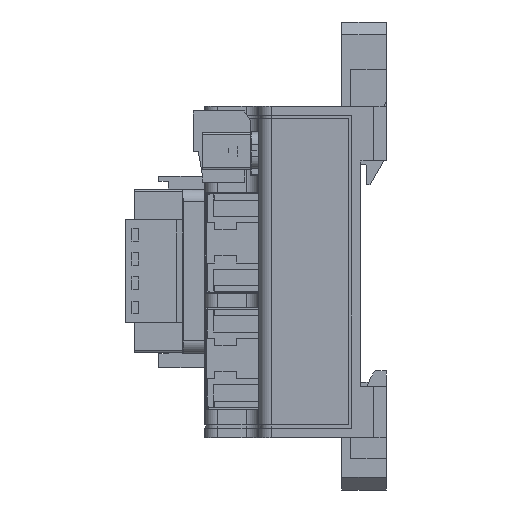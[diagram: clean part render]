
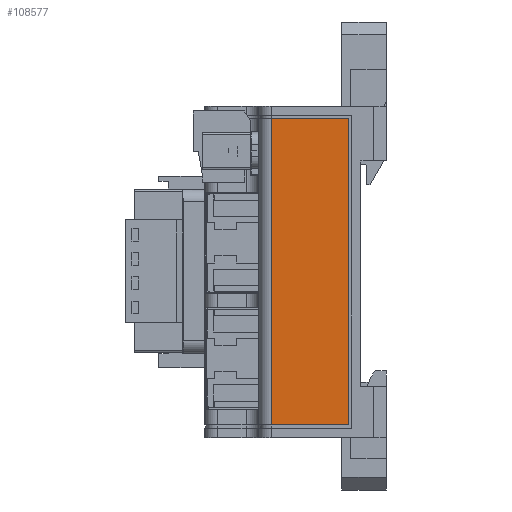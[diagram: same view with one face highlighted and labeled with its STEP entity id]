
A CAD part, left-side view. The second image highlights one B-rep face of the part: STEP entity #108577.
In plain terms, the highlighted planar face has unit normal (-0.999, 0.039, 0).
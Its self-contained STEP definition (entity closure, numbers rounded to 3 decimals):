
#741 = ORIENTED_EDGE ( 'NONE', *, *, #1602, .T. ) ;
#937 = VECTOR ( 'NONE', #34202, 1000. ) ;
#1602 = EDGE_CURVE ( 'NONE', #79859, #6492, #90097, .T. ) ;
#4443 = VERTEX_POINT ( 'NONE', #69284 ) ;
#6492 = VERTEX_POINT ( 'NONE', #54563 ) ;
#7010 = CARTESIAN_POINT ( 'NONE',  ( 0., 0., 0. ) ) ;
#9816 = PLANE ( 'NONE',  #99171 ) ;
#16197 = CARTESIAN_POINT ( 'NONE',  ( 0.625, 16.078, -48. ) ) ;
#18186 = ORIENTED_EDGE ( 'NONE', *, *, #47320, .T. ) ;
#19769 = CARTESIAN_POINT ( 'NONE',  ( 0.156, 4., -48. ) ) ;
#24911 = LINE ( 'NONE', #7010, #937 ) ;
#25563 = EDGE_LOOP ( 'NONE', ( #18186, #45546, #87542, #741 ) ) ;
#31040 = CARTESIAN_POINT ( 'NONE',  ( 0.156, 4., -48. ) ) ;
#31195 = DIRECTION ( 'NONE',  ( 0.039, 0.999, 0. ) ) ;
#34048 = EDGE_CURVE ( 'NONE', #79859, #49947, #97589, .T. ) ;
#34202 = DIRECTION ( 'NONE',  ( 0.039, 0.999, 0. ) ) ;
#37043 = DIRECTION ( 'NONE',  ( 0.039, 0.999, 0. ) ) ;
#44038 = CARTESIAN_POINT ( 'NONE',  ( 0.625, 16.078, -48. ) ) ;
#44500 = VECTOR ( 'NONE', #53096, 1000. ) ;
#45546 = ORIENTED_EDGE ( 'NONE', *, *, #60781, .T. ) ;
#46979 = VECTOR ( 'NONE', #31195, 1000. ) ;
#47320 = EDGE_CURVE ( 'NONE', #6492, #4443, #24911, .T. ) ;
#48018 = VECTOR ( 'NONE', #93890, 1000. ) ;
#49947 = VERTEX_POINT ( 'NONE', #16197 ) ;
#53096 = DIRECTION ( 'NONE',  ( 0., 0., -1. ) ) ;
#53528 = FACE_OUTER_BOUND ( 'NONE', #25563, .T. ) ;
#54563 = CARTESIAN_POINT ( 'NONE',  ( 0.156, 4., 0. ) ) ;
#60781 = EDGE_CURVE ( 'NONE', #4443, #49947, #116206, .T. ) ;
#67321 = CARTESIAN_POINT ( 'NONE',  ( 0., 0., -48. ) ) ;
#69284 = CARTESIAN_POINT ( 'NONE',  ( 0.625, 16.078, 0. ) ) ;
#72734 = CARTESIAN_POINT ( 'NONE',  ( 0., 0., -48. ) ) ;
#79859 = VERTEX_POINT ( 'NONE', #19769 ) ;
#87542 = ORIENTED_EDGE ( 'NONE', *, *, #34048, .F. ) ;
#90097 = LINE ( 'NONE', #31040, #48018 ) ;
#90806 = DIRECTION ( 'NONE',  ( 0.999, -0.039, 0. ) ) ;
#93890 = DIRECTION ( 'NONE',  ( 0., 0., 1. ) ) ;
#97589 = LINE ( 'NONE', #67321, #46979 ) ;
#99171 = AXIS2_PLACEMENT_3D ( 'NONE', #72734, #90806, #37043 ) ;
#108577 = ADVANCED_FACE ( 'NONE', ( #53528 ), #9816, .F. ) ;
#116206 = LINE ( 'NONE', #44038, #44500 ) ;
